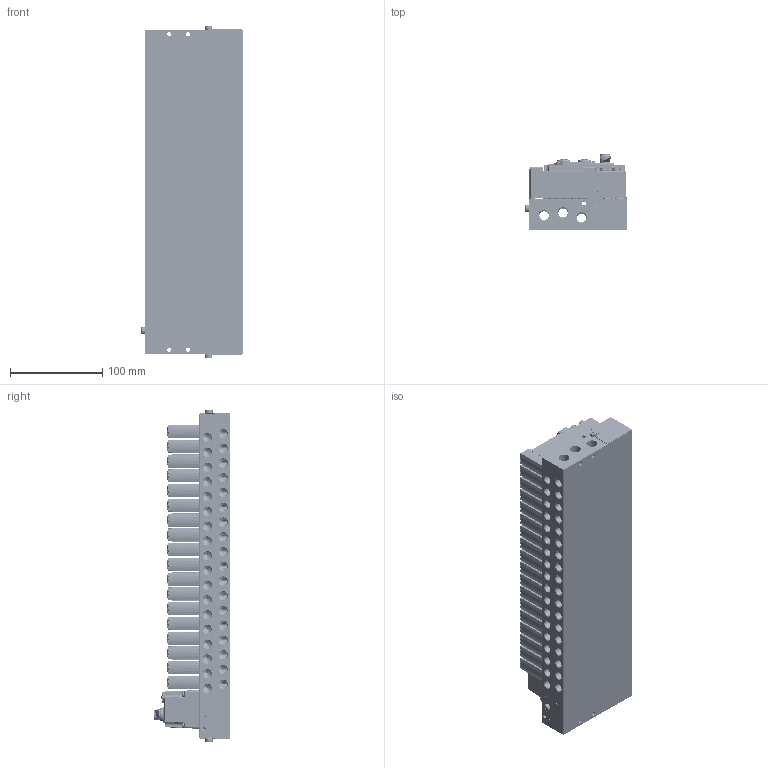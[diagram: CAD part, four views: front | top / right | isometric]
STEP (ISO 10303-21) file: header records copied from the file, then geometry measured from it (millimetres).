
FILE_DESCRIPTION((''),'2;1');
FILE_NAME('C3-L14-W-XBF-18_ASM','2026-06-22T10:47:34',('admin'),(''),'CREO PARAMETRIC BY PTC INC, 2022073','CREO PARAMETRIC BY PTC INC, 2022073','');
FILE_SCHEMA(('CONFIG_CONTROL_DESIGN'));
Products named in the file (49): 202300320_ASM-1_202300349-1-SOL; NONE-2331; PRT0002-1-SOLID2; 202300320_ASM-1_202300349-2-SOL; 202300320_ASM-1_202300355-1-SOL; 202300320_ASM-1_202300318_ASM-1; NONE-57479; 202300320_ASM-1_202300327-1-SOL; 202300320_ASM-1_202300353-1-SOL; PRT0002-1-SOLID1; 202300320_ASM-1_202300353-2-SOL; 202300320_ASM-1_202300314_ASM-1; 202300320_ASM-1_202300355-2-SOL; PRT0002-1-SOLID4; 202300320_ASM-1_202300144-1-SOL; 202300320_ASM-1_202300351-2-SOL; 202300320_ASM-1_202300351-1-SOL; NONE-218237; SURFACE-VGB14_ASM; M50001; XBF_0001_ASM; 0001; C3-L14-W-XBF-18-35118; C3-L14-W-XBF-18-171877_ASM; SURFACE-VGB14_ASM_1_ASM_1_ASM_1; M3X16-2-SOLID10001_1_1_1; M3X16-4-SOLID10001_1_1_1; SH794-1-1-SOLID1_1_1_1_1; SH794-1-1-SOLID1_1_2_1_1; SH794-1-1-SOLID1_1_3_1_1; SH794-1-1-SOLID1_1_ASM_1_ASM_1_ASM; M3X5-1-SOLID10001_1_1_1; M3X16-3-SOLID10001_1_1_1; M12D-2022_11_-70380001_1_1_1; M12D-2022_11_-82260001_1_1_1; M3X16-1-SOLID10001_1_1_1; NONE-196029_1_1_1; SH794-3-1-SOLID1_1_1_1; NONE-215390_1_1_1; M12A5-1-SOLID10001_1_1_1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
Assembly tree (97 placements, depth 9):
  C3-L14-W-XBF-18_ASM
    C3-L14-W-XBF-18-171877_ASM
      SURFACE-VGB14_ASM  x18
        202300320_ASM-1_202300349-1-SOL
        NONE-2331
        PRT0002-1-SOLID2
        202300320_ASM-1_202300349-2-SOL
        202300320_ASM-1_202300355-1-SOL
        202300320_ASM-1_202300318_ASM-1
        NONE-57479
        202300320_ASM-1_202300327-1-SOL
        202300320_ASM-1_202300353-1-SOL
        PRT0002-1-SOLID1
        202300320_ASM-1_202300353-2-SOL
        202300320_ASM-1_202300314_ASM-1
        202300320_ASM-1_202300355-2-SOL
        PRT0002-1-SOLID4
        202300320_ASM-1_202300144-1-SOL
        202300320_ASM-1_202300351-2-SOL
        202300320_ASM-1_202300351-1-SOL
        NONE-218237
      M50001  x3
      XBF_0001_ASM
      0001  x2
      C3-L14-W-XBF-18-35118
    C3EC_ASM
      C3-L14-W-XBF-24_ASM_ASM_1_ASM
        C3-L14-W-XBF-24_ASM_ASM_1_ASM_1_ASM
          C3-L14-W-XBF-24_ASM_1_ASM_1_ASM_ASM
            C3-L14-W-XBF-24-210887_ASM_1_AS_ASM
              SURFACE-VGB14_ASM_1_ASM_1_ASM_1  x24
              XBF_0001_ASM_1_ASM_1_ASM_1_ASM
                M3X16-2-SOLID10001_1_1_1
                M3X16-4-SOLID10001_1_1_1
                SH794-1-1-SOLID1_1_ASM_1_ASM_1_ASM
                  SH794-1-1-SOLID1_1_1_1_1
                  SH794-1-1-SOLID1_1_2_1_1
                  SH794-1-1-SOLID1_1_3_1_1
                M3X5-1-SOLID10001_1_1_1  x2
                M3X16-3-SOLID10001_1_1_1
                M12D-2022_11_-70380001_1_1_1
                M12D-2022_11_-82260001_1_1_1
                M3X16-1-SOLID10001_1_1_1
                NONE-196029_1_1_1
                SH794-3-1-SOLID1_1_1_1
                NONE-215390_1_1_1
                M12A5-1-SOLID10001_1_1_1
            _06--1-SOLID30001_1_1_1  x6
            IP_COVER_1_1_1
Bounding box: 110 x 83.3 x 360 mm (x, y, z)
Volume: 1631580.9 mm3; surface area: 590105.6 mm2
Topology: 352 solids, 480 shells, 27297 faces, 69960 edges, 40726 vertices
Faces by surface type: cylinder 9487, plane 6766, bspline 3054, torus 2897, cone 2561, sphere 2447, extrusion 85
Entity records: 196379 total; most frequent: CARTESIAN_POINT 69791, DIRECTION 26380, ORIENTED_EDGE 26380, EDGE_CURVE 13198, AXIS2_PLACEMENT_3D 10319, VERTEX_POINT 8435, EDGE_LOOP 5867, VECTOR 5742
